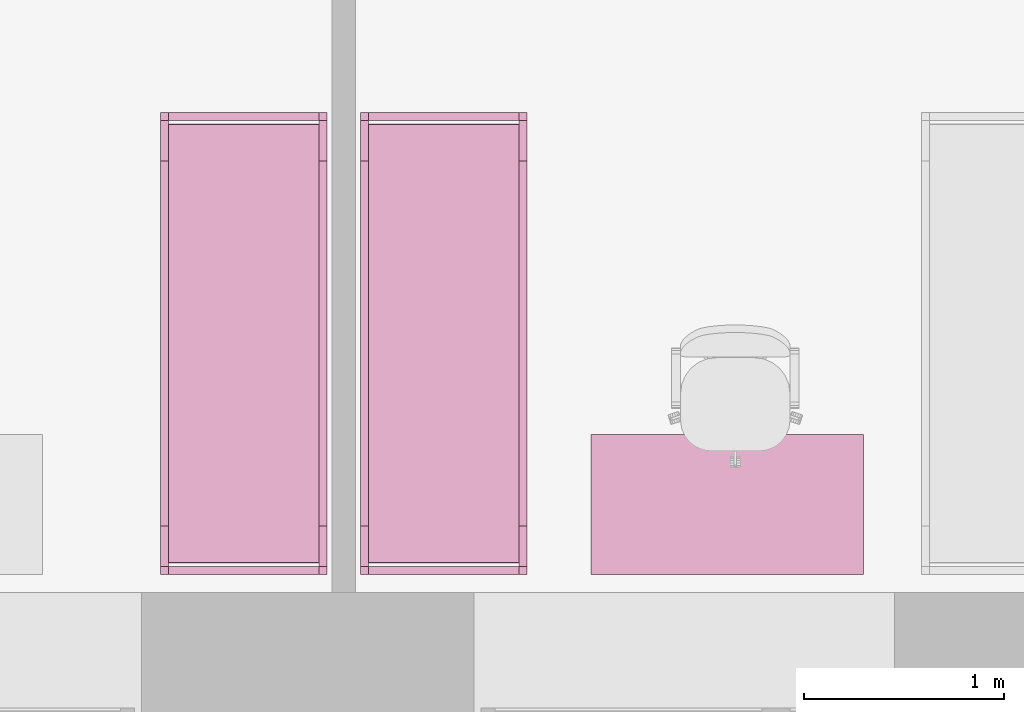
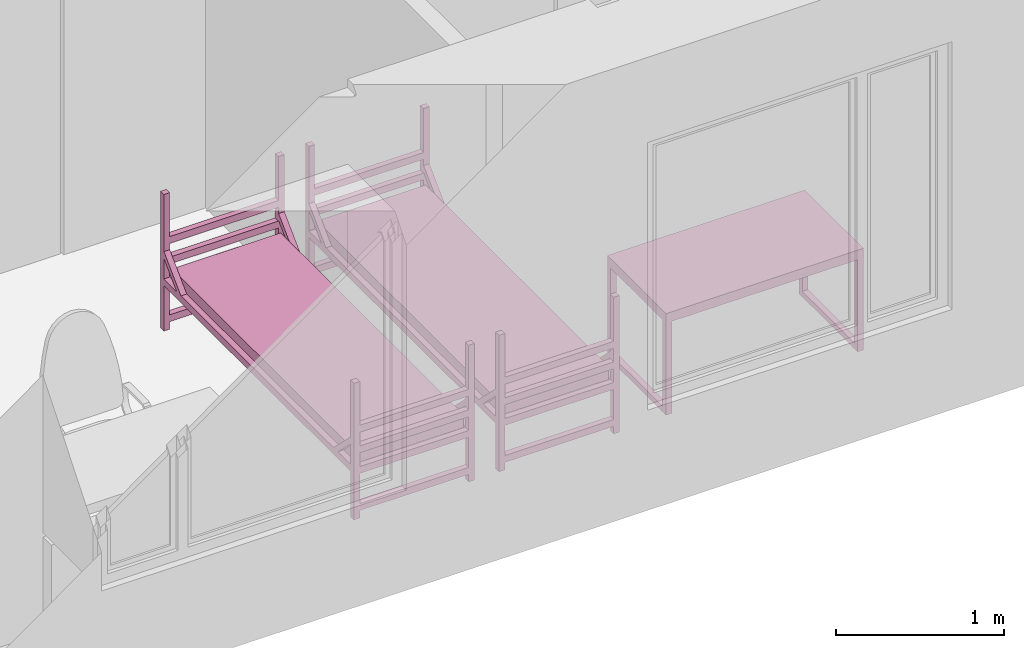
# One storey, part 25 of 48: 3 furnishings.
"""IFC2X3 building model written with IfcOpenShell, lengths in millimetres."""

from ifc_helpers import new_model, entity, si_unit, converted_unit, derived_unit, direction, frame, frame_2d, origin, origin_2d_with_axis, place, context, subcontext, project, spatial, polyline, circle_curve, parameter, trimmed, segment, composite_curve, rectangle, outline, extrude, faceted_brep, source, transform, mapped, material, material_list, type_object, type_shapes, element, save


model = new_model("IFC2X3")

# Units and contexts
model_context = context("Model", 3, precision=0.01, world=origin(), true_north=direction((6.12303176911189e-17, 1.0)))
body_context = subcontext(model_context, "Body", "Model", "MODEL_VIEW")
ifc_project = project(units=[si_unit("LENGTHUNIT", "METRE", prefix="MILLI"), si_unit("AREAUNIT", "SQUARE_METRE"), si_unit("VOLUMEUNIT", "CUBIC_METRE"), converted_unit("PLANEANGLEUNIT", "DEGREE", entity("IfcRatioMeasure", 0.0174532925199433), si_unit("PLANEANGLEUNIT", "RADIAN"), dimensions=[0, 0, 0, 0, 0, 0, 0]), si_unit("MASSUNIT", "GRAM", prefix="KILO"), derived_unit("MASSDENSITYUNIT", [(si_unit("MASSUNIT", "GRAM", prefix="KILO"), 1), (si_unit("LENGTHUNIT", "METRE"), -3)]), si_unit("TIMEUNIT", "SECOND"), si_unit("FREQUENCYUNIT", "HERTZ"), si_unit("THERMODYNAMICTEMPERATUREUNIT", "DEGREE_CELSIUS"), derived_unit("THERMALTRANSMITTANCEUNIT", [(si_unit("MASSUNIT", "GRAM", prefix="KILO"), 1), (si_unit("THERMODYNAMICTEMPERATUREUNIT", "KELVIN"), -1), (si_unit("TIMEUNIT", "SECOND"), -3)]), derived_unit("VOLUMETRICFLOWRATEUNIT", [(si_unit("LENGTHUNIT", "METRE"), 3), (si_unit("TIMEUNIT", "SECOND"), -1)]), si_unit("ELECTRICCURRENTUNIT", "AMPERE"), si_unit("ELECTRICVOLTAGEUNIT", "VOLT"), si_unit("POWERUNIT", "WATT"), si_unit("FORCEUNIT", "NEWTON", prefix="KILO"), si_unit("ILLUMINANCEUNIT", "LUX"), si_unit("LUMINOUSFLUXUNIT", "LUMEN"), si_unit("LUMINOUSINTENSITYUNIT", "CANDELA"), derived_unit("USERDEFINED", [(si_unit("MASSUNIT", "GRAM", prefix="KILO"), -1), (si_unit("LENGTHUNIT", "METRE"), -2), (si_unit("TIMEUNIT", "SECOND"), 3), (si_unit("LUMINOUSFLUXUNIT", "LUMEN"), 1)]), derived_unit("LINEARVELOCITYUNIT", [(si_unit("LENGTHUNIT", "METRE"), 1), (si_unit("TIMEUNIT", "SECOND"), -1)]), si_unit("PRESSUREUNIT", "PASCAL"), derived_unit("USERDEFINED", [(si_unit("LENGTHUNIT", "METRE"), -2), (si_unit("MASSUNIT", "GRAM", prefix="KILO"), 1), (si_unit("TIMEUNIT", "SECOND"), -2)]), derived_unit("LINEARFORCEUNIT", [(si_unit("MASSUNIT", "GRAM", prefix="KILO"), 1), (si_unit("LENGTHUNIT", "METRE"), 1), (si_unit("TIMEUNIT", "SECOND"), -2), (si_unit("LENGTHUNIT", "METRE"), -1)]), derived_unit("PLANARFORCEUNIT", [(si_unit("MASSUNIT", "GRAM", prefix="KILO"), 1), (si_unit("LENGTHUNIT", "METRE"), 1), (si_unit("TIMEUNIT", "SECOND"), -2), (si_unit("LENGTHUNIT", "METRE"), -2)])], contexts=[model_context])

# Site, building, storey, space
site_placement = place(None, origin())
site = spatial("IfcSite", under=ifc_project, at=site_placement, Name="Default", CompositionType="ELEMENT")
building_placement = place(site_placement, origin())
building = spatial("IfcBuilding", under=site, at=building_placement, Name="SMA ARH", CompositionType="ELEMENT")
storey_placement = place(building_placement, frame((0.0, 0.0, 3300.0)))
storey = spatial("IfcBuildingStorey", under=building, at=storey_placement, Name="2 Korrus", CompositionType="ELEMENT", Elevation=3299.99999999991)
space_1_placement = place(storey_placement, origin())
space_1 = spatial("IfcSpace", under=storey, at=space_1_placement, Name="2-14", CompositionType="ELEMENT", InteriorOrExteriorSpace="INTERNAL")

# Furnishing
ifc_material_1 = material(Name="Madrats")
furniture_type_1 = type_object("IfcFurnitureType", Name="Kasarmu voodi ühekordne 2308x830:Kasarmu voodi ühekordne 2308x830", material=ifc_material_1)
shared_shape_1 = source(origin(), body_context, "Body", "SweptSolid", [
    extrude(rectangle(XDim=39.9999999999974, YDim=750.000000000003, at=frame_2d((-1.35003119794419e-13, -2.8421709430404e-14), x_axis=(1.0, 0.0))), frame((1.68638457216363, -1226.7969571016, 55.0), z_axis=(0.0, 0.0, 1.0), x_axis=(0.0, -1.0, 0.0)), (0.0, 0.0, 1.0), 49.9999999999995),
    extrude(rectangle(XDim=39.9999999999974, YDim=750.000000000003, at=frame_2d((-1.35003119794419e-13, -2.8421709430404e-14), x_axis=(1.0, 0.0))), frame((1.68638457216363, -1226.7969571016, 325.0), z_axis=(0.0, 0.0, 1.0), x_axis=(0.0, -1.0, 0.0)), (0.0, 0.0, 1.0), 49.9999999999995),
    extrude(rectangle(XDim=39.9999999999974, YDim=750.000000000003, at=frame_2d((-1.35003119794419e-13, -2.8421709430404e-14), x_axis=(1.0, 0.0))), frame((1.68638457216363, -1226.7969571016, 475.0), z_axis=(0.0, 0.0, 1.0), x_axis=(0.0, -1.0, 0.0)), (0.0, 0.0, 1.0), 49.9999999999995),
    extrude(rectangle(XDim=39.9999999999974, YDim=750.000000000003, at=frame_2d((-1.35003119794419e-13, -2.8421709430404e-14), x_axis=(1.0, 0.0))), frame((1.68638457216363, -1226.7969571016, 625.0), z_axis=(0.0, 0.0, 1.0), x_axis=(0.0, -1.0, 0.0)), (0.0, 0.0, 1.0), 50.0000000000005),
    extrude(rectangle(XDim=39.9999999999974, YDim=750.000000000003, at=frame_2d((1.35003119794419e-13, -2.8421709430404e-14), x_axis=(1.0, 0.0))), frame((1.68638457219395, 1041.2030428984, 55.0), z_axis=(0.0, 0.0, 1.0), x_axis=(0.0, -1.0, 0.0)), (0.0, 0.0, 1.0), 50.0000000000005),
    extrude(rectangle(XDim=39.9999999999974, YDim=750.000000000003, at=frame_2d((1.35003119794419e-13, -2.8421709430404e-14), x_axis=(1.0, 0.0))), frame((1.68638457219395, 1041.2030428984, 325.0), z_axis=(0.0, 0.0, 1.0), x_axis=(0.0, -1.0, 0.0)), (0.0, 0.0, 1.0), 50.0000000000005),
    extrude(rectangle(XDim=39.9999999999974, YDim=750.000000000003, at=frame_2d((1.35003119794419e-13, -2.8421709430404e-14), x_axis=(1.0, 0.0))), frame((1.68638457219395, 1041.2030428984, 475.0), z_axis=(0.0, 0.0, 1.0), x_axis=(0.0, -1.0, 0.0)), (0.0, 0.0, 1.0), 50.0000000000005),
    extrude(rectangle(XDim=39.9999999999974, YDim=750.000000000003, at=frame_2d((1.35003119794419e-13, -2.8421709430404e-14), x_axis=(1.0, 0.0))), frame((1.68638457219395, 1041.2030428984, 625.0), z_axis=(0.0, 0.0, 1.0), x_axis=(0.0, -1.0, 0.0)), (0.0, 0.0, 1.0), 49.9999999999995),
    extrude(outline(composite_curve([segment(trimmed(circle_curve(frame_2d((1085.0, -40.0), x_axis=(1.0, 0.0)), 10.0), [parameter(270.0)], [parameter(0.0)], True, "PARAMETER"), True, "CONTINUOUS"), segment(polyline([(1095.0, -40.0), (1095.0, 40.0)]), True, "CONTINUOUS"), segment(trimmed(circle_curve(frame_2d((1085.0, 40.0), x_axis=(1.0, 0.0)), 10.0), [parameter(0.0)], [parameter(90.0000000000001)], True, "PARAMETER"), True, "CONTINUOUS"), segment(polyline([(1085.0, 50.0), (-1085.0, 50.0)]), True, "CONTINUOUS"), segment(trimmed(circle_curve(frame_2d((-1085.0, 40.0), x_axis=(1.0, 0.0)), 10.0), [parameter(90.0000000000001)], [parameter(180.0)], True, "PARAMETER"), True, "CONTINUOUS"), segment(polyline([(-1095.0, 40.0), (-1095.0, -40.0)]), True, "CONTINUOUS"), segment(trimmed(circle_curve(frame_2d((-1085.0, -40.0), x_axis=(1.0, 0.0)), 10.0), [parameter(180.0)], [parameter(270.0)], True, "PARAMETER"), True, "CONTINUOUS"), segment(polyline([(-1085.0, -50.0), (1085.0, -50.0)]), True, "CONTINUOUS")], self_intersect=False)), frame((-373.313615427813, -92.7969571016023, 405.0), z_axis=(1.0, 0.0, 0.0), x_axis=(0.0, -1.0, 0.0)), (0.0, 0.0, 1.0), 750.000000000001),
    extrude(outline(polyline([(-1114.0, -100.0), (1114.0, -100.0), (1114.0, -50.0), (961.59199141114, -50.0), (1114.0, 100.0), (1114.0, 150.0), (910.789321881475, -50.0), (-910.789321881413, -50.0), (-1114.0, 150.0), (-1114.0, 100.0), (-961.591991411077, -50.0), (-1114.0, -50.0), (-1114.0, -100.0)])), frame((-413.313615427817, -92.7969571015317, 430.0), z_axis=(1.0, 0.0, 0.0), x_axis=(0.0, 1.0, 0.0)), (0.0, 0.0, 1.0), 39.9999999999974),
    extrude(outline(polyline([(-1114.0, -100.0), (1114.0, -100.0), (1114.0, -50.0), (961.591991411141, -50.0), (1114.0, 100.0), (1114.0, 150.0), (910.789321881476, -50.0), (-910.789321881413, -50.0), (-1114.0, 150.0), (-1114.0, 100.0), (-961.591991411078, -50.0), (-1114.0, -50.0), (-1114.0, -100.0)])), frame((376.686384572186, -92.796957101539, 430.0), z_axis=(1.0, 0.0, 0.0), x_axis=(0.0, 1.0, 0.0)), (0.0, 0.0, 1.0), 39.9999999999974),
    extrude(rectangle(XDim=39.9999999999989, YDim=39.9999999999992, at=frame_2d((-6.75015598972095e-14, 0.0), x_axis=(1.0, 0.0))), frame((396.686384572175, -1226.79695710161, 0.0), z_axis=(0.0, 0.0, 1.0), x_axis=(0.0, 1.0, 0.0)), (0.0, 0.0, 1.0), 995.0),
    extrude(rectangle(XDim=39.9999999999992, YDim=39.9999999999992, at=frame_2d((-1.35003119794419e-13, 0.0), x_axis=(1.0, 0.0))), frame((396.686384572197, 1041.20304289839, 0.0), z_axis=(0.0, 0.0, 1.0), x_axis=(0.0, 1.0, 0.0)), (0.0, 0.0, 1.0), 995.0),
    extrude(rectangle(XDim=40.0000000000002, YDim=39.9999999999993, at=frame_2d((-1.35003119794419e-13, 0.0), x_axis=(1.0, 0.0))), frame((-393.313615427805, 1041.2030428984, 0.0), z_axis=(0.0, 0.0, 1.0), x_axis=(0.0, 1.0, 0.0)), (0.0, 0.0, 1.0), 995.0),
    extrude(rectangle(XDim=39.9999999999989, YDim=39.9999999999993, at=frame_2d((-6.75015598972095e-14, 0.0), x_axis=(1.0, 0.0))), frame((-393.313615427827, -1226.7969571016, 0.0), z_axis=(0.0, 0.0, 1.0), x_axis=(0.0, 1.0, 0.0)), (0.0, 0.0, 1.0), 995.0),
])
type_shapes(furniture_type_1, [shared_shape_1])
furnishing_1_placement = place(space_1_placement, frame((7628.8136154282, 1336.79695710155, 0.0)))
element("IfcFurnishingElement", 1, at=furnishing_1_placement, inside=space_1, type_object=furniture_type_1, material=ifc_material_1, Name="Kasarmu voodi ühekordne 2308x830:Kasarmu voodi ühekordne 2308x830", ObjectType="Kasarmu voodi ühekordne 2308x830:Kasarmu voodi ühekordne 2308x830", context=body_context, shape_type="MappedRepresentation", body=[
    mapped(shared_shape_1, transform((0.0, 0.0, 0.0), scale=1.0)),
])

# Space
space_2_placement = place(storey_placement, origin())
space_2 = spatial("IfcSpace", under=storey, at=space_2_placement, Name="2-13", CompositionType="ELEMENT", InteriorOrExteriorSpace="INTERNAL")

# Furnishings
ifc_material_2 = material(Name="<Unnamed>")
ifc_material_list = material_list([ifc_material_2, ifc_material_2])
furniture_type_2 = type_object("IfcFurnitureType", Name="kirjutuslaud 1360x700mm:kirjutuslaud 1360x700mm", material=ifc_material_list)
shared_shape_2 = source(origin(), body_context, "Body", "Brep", [
    faceted_brep([(680.0, -350.0, 720.0), (680.0, 350.0, 720.0), (680.0, 350.0, 750.0), (680.0, -350.0, 750.0), (-680.0, -350.0, 720.0), (-680.0, -350.0, 750.0), (-680.0, 350.0, 750.0), (-680.0, 350.0, 720.0)], [[[0, 1, 2, 3]], [[4, 5, 6, 7]], [[1, 0, 4, 7]], [[2, 1, 7, 6]], [[3, 2, 6, 5]], [[0, 3, 5, 4]]]),
    faceted_brep([(-640.0, -310.0, 680.0), (-640.0, 310.0, 680.0), (-640.0, 310.0, 720.0), (-640.0, -310.0, 720.0), (-680.0, -350.0, 720.0), (-680.0, 350.0, 720.0), (-680.0, 350.0, 10.0), (-680.0, -350.0, 10.0), (-680.0, 310.0, 680.0), (-680.0, -310.0, 680.0), (-680.0, -310.0, 50.0), (-680.0, 310.0, 50.0), (-640.0, -350.0, 10.0), (-640.0, -350.0, 680.0), (640.0, -350.0, 680.0), (640.0, -350.0, 10.0), (680.0, -350.0, 10.0), (680.0, -350.0, 720.0), (-640.0, 350.0, 10.0), (680.0, 350.0, 720.0), (680.0, 350.0, 10.0), (640.0, 350.0, 10.0), (640.0, 350.0, 680.0), (-640.0, 350.0, 680.0), (640.0, 310.0, 720.0), (640.0, -310.0, 720.0), (-640.0, 310.0, 50.0), (-640.0, -310.0, 50.0), (640.0, -310.0, 680.0), (640.0, 310.0, 680.0), (680.0, 310.0, 680.0), (680.0, 310.0, 50.0), (680.0, -310.0, 50.0), (680.0, -310.0, 680.0), (640.0, -310.0, 50.0), (640.0, 310.0, 50.0)], [[[0, 1, 2, 3]], [[4, 5, 6, 7], [8, 9, 10, 11]], [[4, 7, 12, 13, 14, 15, 16, 17]], [[18, 12, 7, 6]], [[6, 5, 19, 20, 21, 22, 23, 18]], [[19, 5, 4, 17], [2, 24, 25, 3]], [[26, 1, 8, 11]], [[27, 26, 11, 10]], [[0, 27, 10, 9]], [[1, 0, 9, 8]], [[14, 13, 0, 28]], [[24, 2, 1, 29]], [[3, 25, 28, 0]], [[17, 16, 20, 19], [30, 31, 32, 33]], [[21, 15, 14, 28, 34, 35, 29, 22]], [[20, 16, 15, 21]], [[31, 30, 29, 35]], [[32, 31, 35, 34]], [[33, 32, 34, 28]], [[30, 33, 28, 29]], [[29, 28, 25, 24]], [[29, 1, 23, 22]], [[12, 18, 23, 1, 26, 27, 0, 13]]]),
    faceted_brep([(-663.729456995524, -270.466136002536, 0.0), (-659.847171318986, -269.955023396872, 0.0), (-655.964885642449, -270.466136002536, 0.0), (-652.347171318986, -271.964642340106, 0.0), (-649.240569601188, -274.348421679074, 0.0), (-646.85679026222, -277.455023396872, 0.0), (-645.35828392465, -281.072737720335, 0.0), (-644.847171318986, -284.955023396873, 0.0), (-645.35828392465, -288.83730907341, 0.0), (-646.85679026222, -292.455023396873, 0.0), (-649.240569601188, -295.561625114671, 0.0), (-652.347171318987, -297.945404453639, 0.0), (-655.964885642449, -299.443910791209, 0.0), (-659.847171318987, -299.955023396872, 0.0), (-663.729456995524, -299.443910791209, 0.0), (-667.347171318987, -297.945404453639, 0.0), (-670.453773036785, -295.561625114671, 0.0), (-672.837552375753, -292.455023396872, 0.0), (-674.336058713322, -288.83730907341, 0.0), (-674.847171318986, -284.955023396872, 0.0), (-674.336058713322, -281.072737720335, 0.0), (-672.837552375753, -277.455023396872, 0.0), (-670.453773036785, -274.348421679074, 0.0), (-667.347171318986, -271.964642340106, 0.0), (-655.964885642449, -299.443910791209, 10.0), (-652.347171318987, -297.945404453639, 10.0), (-649.240569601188, -295.561625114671, 10.0), (-646.85679026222, -292.455023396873, 10.0), (-645.35828392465, -288.83730907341, 10.0), (-644.847171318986, -284.955023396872, 10.0), (-645.35828392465, -281.072737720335, 10.0), (-646.85679026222, -277.455023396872, 10.0), (-649.240569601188, -274.348421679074, 10.0), (-652.347171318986, -271.964642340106, 10.0), (-655.964885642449, -270.466136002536, 10.0), (-659.847171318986, -269.955023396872, 10.0), (-663.729456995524, -270.466136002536, 10.0), (-667.347171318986, -271.964642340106, 10.0), (-670.453773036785, -274.348421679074, 10.0), (-672.837552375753, -277.455023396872, 10.0), (-674.336058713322, -281.072737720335, 10.0), (-674.847171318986, -284.955023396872, 10.0), (-674.336058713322, -288.83730907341, 10.0), (-672.837552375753, -292.455023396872, 10.0), (-670.453773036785, -295.561625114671, 10.0), (-667.347171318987, -297.945404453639, 10.0), (-663.729456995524, -299.443910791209, 10.0), (-659.847171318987, -299.955023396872, 10.0)], [[[0, 1, 2, 3, 4, 5, 6, 7, 8, 9, 10, 11, 12, 13, 14, 15, 16, 17, 18, 19, 20, 21, 22, 23]], [[24, 25, 26, 27, 28, 29, 30, 31, 32, 33, 34, 35, 36, 37, 38, 39, 40, 41, 42, 43, 44, 45, 46, 47]], [[18, 42, 41, 19]], [[17, 43, 42, 18]], [[45, 44, 16, 15]], [[17, 16, 44, 43]], [[46, 45, 15, 14]], [[47, 46, 14, 13]], [[12, 24, 47, 13]], [[11, 25, 24, 12]], [[27, 26, 10, 9]], [[11, 10, 26, 25]], [[28, 27, 9, 8]], [[29, 28, 8, 7]], [[6, 30, 29, 7]], [[5, 31, 30, 6]], [[33, 32, 4, 3]], [[5, 4, 32, 31]], [[34, 33, 3, 2]], [[35, 34, 2, 1]], [[0, 36, 35, 1]], [[23, 37, 36, 0]], [[39, 38, 22, 21]], [[23, 22, 38, 37]], [[40, 39, 21, 20]], [[41, 40, 20, 19]]]),
    faceted_brep([(-655.964885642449, 270.466136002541, 10.0), (-652.347171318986, 271.964642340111, 10.0), (-649.240569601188, 274.348421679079, 10.0), (-646.85679026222, 277.455023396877, 10.0), (-645.35828392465, 281.07273772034, 10.0), (-644.847171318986, 284.955023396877, 10.0), (-645.35828392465, 288.837309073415, 10.0), (-646.85679026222, 292.455023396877, 10.0), (-649.240569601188, 295.561625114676, 10.0), (-652.347171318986, 297.945404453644, 10.0), (-655.964885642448, 299.443910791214, 10.0), (-659.847171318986, 299.955023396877, 10.0), (-663.729456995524, 299.443910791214, 10.0), (-667.347171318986, 297.945404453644, 10.0), (-670.453773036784, 295.561625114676, 10.0), (-672.837552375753, 292.455023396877, 10.0), (-674.336058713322, 288.837309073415, 10.0), (-674.847171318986, 284.955023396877, 10.0), (-674.336058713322, 281.07273772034, 10.0), (-672.837552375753, 277.455023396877, 10.0), (-670.453773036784, 274.348421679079, 10.0), (-667.347171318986, 271.964642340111, 10.0), (-663.729456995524, 270.466136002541, 10.0), (-659.847171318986, 269.955023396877, 10.0), (-655.964885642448, 299.443910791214, 0.0), (-652.347171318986, 297.945404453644, 0.0), (-649.240569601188, 295.561625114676, 0.0), (-646.85679026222, 292.455023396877, 0.0), (-645.35828392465, 288.837309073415, 0.0), (-644.847171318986, 284.955023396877, 0.0), (-645.35828392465, 281.07273772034, 0.0), (-646.85679026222, 277.455023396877, 0.0), (-649.240569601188, 274.348421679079, 0.0), (-652.347171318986, 271.964642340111, 0.0), (-655.964885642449, 270.466136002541, 0.0), (-659.847171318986, 269.955023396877, 0.0), (-663.729456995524, 270.466136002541, 0.0), (-667.347171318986, 271.964642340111, 0.0), (-670.453773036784, 274.348421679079, 0.0), (-672.837552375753, 277.455023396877, 0.0), (-674.336058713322, 281.07273772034, 0.0), (-674.847171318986, 284.955023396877, 0.0), (-674.336058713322, 288.837309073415, 0.0), (-672.837552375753, 292.455023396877, 0.0), (-670.453773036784, 295.561625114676, 0.0), (-667.347171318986, 297.945404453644, 0.0), (-663.729456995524, 299.443910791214, 0.0), (-659.847171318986, 299.955023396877, 0.0)], [[[0, 1, 2, 3, 4, 5, 6, 7, 8, 9, 10, 11, 12, 13, 14, 15, 16, 17, 18, 19, 20, 21, 22, 23]], [[24, 25, 26, 27, 28, 29, 30, 31, 32, 33, 34, 35, 36, 37, 38, 39, 40, 41, 42, 43, 44, 45, 46, 47]], [[40, 18, 17, 41]], [[39, 19, 18, 40]], [[21, 20, 38, 37]], [[39, 38, 20, 19]], [[22, 21, 37, 36]], [[23, 22, 36, 35]], [[34, 0, 23, 35]], [[33, 1, 0, 34]], [[3, 2, 32, 31]], [[33, 32, 2, 1]], [[4, 3, 31, 30]], [[5, 4, 30, 29]], [[28, 6, 5, 29]], [[27, 7, 6, 28]], [[9, 8, 26, 25]], [[27, 26, 8, 7]], [[10, 9, 25, 24]], [[11, 10, 24, 47]], [[46, 12, 11, 47]], [[45, 13, 12, 46]], [[15, 14, 44, 43]], [[45, 44, 14, 13]], [[16, 15, 43, 42]], [[17, 16, 42, 41]]]),
    faceted_brep([(656.270543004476, -270.466136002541, 0.0), (660.152828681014, -269.955023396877, 0.0), (664.035114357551, -270.466136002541, 0.0), (667.652828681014, -271.96464234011, 0.0), (670.759430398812, -274.348421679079, 0.0), (673.14320973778, -277.455023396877, 0.0), (674.64171607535, -281.072737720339, 0.0), (675.152828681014, -284.955023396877, 0.0), (674.64171607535, -288.837309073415, 0.0), (673.14320973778, -292.455023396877, 0.0), (670.759430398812, -295.561625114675, 0.0), (667.652828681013, -297.945404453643, 0.0), (664.035114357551, -299.443910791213, 0.0), (660.152828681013, -299.955023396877, 0.0), (656.270543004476, -299.443910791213, 0.0), (652.652828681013, -297.945404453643, 0.0), (649.546226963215, -295.561625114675, 0.0), (647.162447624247, -292.455023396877, 0.0), (645.663941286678, -288.837309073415, 0.0), (645.152828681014, -284.955023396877, 0.0), (645.663941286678, -281.072737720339, 0.0), (647.162447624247, -277.455023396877, 0.0), (649.546226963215, -274.348421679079, 0.0), (652.652828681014, -271.96464234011, 0.0), (664.035114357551, -299.443910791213, 10.0), (667.652828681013, -297.945404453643, 10.0), (670.759430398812, -295.561625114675, 10.0), (673.14320973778, -292.455023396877, 10.0), (674.64171607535, -288.837309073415, 10.0), (675.152828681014, -284.955023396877, 10.0), (674.64171607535, -281.072737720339, 10.0), (673.14320973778, -277.455023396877, 10.0), (670.759430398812, -274.348421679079, 10.0), (667.652828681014, -271.96464234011, 10.0), (664.035114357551, -270.466136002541, 10.0), (660.152828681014, -269.955023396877, 10.0), (656.270543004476, -270.466136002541, 10.0), (652.652828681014, -271.96464234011, 10.0), (649.546226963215, -274.348421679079, 10.0), (647.162447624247, -277.455023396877, 10.0), (645.663941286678, -281.072737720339, 10.0), (645.152828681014, -284.955023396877, 10.0), (645.663941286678, -288.837309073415, 10.0), (647.162447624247, -292.455023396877, 10.0), (649.546226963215, -295.561625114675, 10.0), (652.652828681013, -297.945404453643, 10.0), (656.270543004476, -299.443910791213, 10.0), (660.152828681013, -299.955023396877, 10.0)], [[[0, 1, 2, 3, 4, 5, 6, 7, 8, 9, 10, 11, 12, 13, 14, 15, 16, 17, 18, 19, 20, 21, 22, 23]], [[24, 25, 26, 27, 28, 29, 30, 31, 32, 33, 34, 35, 36, 37, 38, 39, 40, 41, 42, 43, 44, 45, 46, 47]], [[18, 42, 41, 19]], [[17, 43, 42, 18]], [[45, 44, 16, 15]], [[17, 16, 44, 43]], [[46, 45, 15, 14]], [[47, 46, 14, 13]], [[12, 24, 47, 13]], [[11, 25, 24, 12]], [[27, 26, 10, 9]], [[11, 10, 26, 25]], [[28, 27, 9, 8]], [[29, 28, 8, 7]], [[6, 30, 29, 7]], [[5, 31, 30, 6]], [[33, 32, 4, 3]], [[5, 4, 32, 31]], [[34, 33, 3, 2]], [[35, 34, 2, 1]], [[0, 36, 35, 1]], [[23, 37, 36, 0]], [[39, 38, 22, 21]], [[23, 22, 38, 37]], [[40, 39, 21, 20]], [[41, 40, 20, 19]]]),
    faceted_brep([(664.035114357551, 270.466136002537, 10.0), (667.652828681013, 271.964642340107, 10.0), (670.759430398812, 274.348421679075, 10.0), (673.14320973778, 277.455023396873, 10.0), (674.64171607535, 281.072737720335, 10.0), (675.152828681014, 284.955023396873, 10.0), (674.64171607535, 288.837309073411, 10.0), (673.14320973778, 292.455023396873, 10.0), (670.759430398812, 295.561625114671, 10.0), (667.652828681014, 297.94540445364, 10.0), (664.035114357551, 299.443910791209, 10.0), (660.152828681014, 299.955023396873, 10.0), (656.270543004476, 299.443910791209, 10.0), (652.652828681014, 297.94540445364, 10.0), (649.546226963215, 295.561625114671, 10.0), (647.162447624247, 292.455023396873, 10.0), (645.663941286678, 288.837309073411, 10.0), (645.152828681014, 284.955023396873, 10.0), (645.663941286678, 281.072737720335, 10.0), (647.162447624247, 277.455023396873, 10.0), (649.546226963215, 274.348421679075, 10.0), (652.652828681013, 271.964642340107, 10.0), (656.270543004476, 270.466136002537, 10.0), (660.152828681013, 269.955023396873, 10.0), (664.035114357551, 299.443910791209, 0.0), (667.652828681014, 297.94540445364, 0.0), (670.759430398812, 295.561625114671, 0.0), (673.14320973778, 292.455023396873, 0.0), (674.64171607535, 288.837309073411, 0.0), (675.152828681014, 284.955023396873, 0.0), (674.64171607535, 281.072737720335, 0.0), (673.14320973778, 277.455023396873, 0.0), (670.759430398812, 274.348421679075, 0.0), (667.652828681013, 271.964642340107, 0.0), (664.035114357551, 270.466136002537, 0.0), (660.152828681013, 269.955023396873, 0.0), (656.270543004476, 270.466136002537, 0.0), (652.652828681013, 271.964642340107, 0.0), (649.546226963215, 274.348421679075, 0.0), (647.162447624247, 277.455023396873, 0.0), (645.663941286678, 281.072737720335, 0.0), (645.152828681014, 284.955023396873, 0.0), (645.663941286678, 288.837309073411, 0.0), (647.162447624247, 292.455023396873, 0.0), (649.546226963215, 295.561625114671, 0.0), (652.652828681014, 297.94540445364, 0.0), (656.270543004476, 299.443910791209, 0.0), (660.152828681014, 299.955023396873, 0.0)], [[[0, 1, 2, 3, 4, 5, 6, 7, 8, 9, 10, 11, 12, 13, 14, 15, 16, 17, 18, 19, 20, 21, 22, 23]], [[24, 25, 26, 27, 28, 29, 30, 31, 32, 33, 34, 35, 36, 37, 38, 39, 40, 41, 42, 43, 44, 45, 46, 47]], [[40, 18, 17, 41]], [[39, 19, 18, 40]], [[21, 20, 38, 37]], [[39, 38, 20, 19]], [[22, 21, 37, 36]], [[23, 22, 36, 35]], [[34, 0, 23, 35]], [[33, 1, 0, 34]], [[3, 2, 32, 31]], [[33, 32, 2, 1]], [[4, 3, 31, 30]], [[5, 4, 30, 29]], [[28, 6, 5, 29]], [[27, 7, 6, 28]], [[9, 8, 26, 25]], [[27, 26, 8, 7]], [[10, 9, 25, 24]], [[11, 10, 24, 47]], [[46, 12, 11, 47]], [[45, 13, 12, 46]], [[15, 14, 44, 43]], [[45, 44, 14, 13]], [[16, 15, 43, 42]], [[17, 16, 42, 41]]]),
])
type_shapes(furniture_type_2, [shared_shape_2])
furnishing_2_placement = place(space_2_placement, frame((10045.5000000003, 440.0, 0.0)))
element("IfcFurnishingElement", 2, at=furnishing_2_placement, inside=space_2, type_object=furniture_type_2, Name="kirjutuslaud 1360x700mm:kirjutuslaud 1360x700mm", ObjectType="kirjutuslaud 1360x700mm:kirjutuslaud 1360x700mm", context=body_context, shape_type="MappedRepresentation", body=[
    mapped(shared_shape_2, transform((0.0, 0.0, 0.0), scale=1.0)),
])
furniture_type_3 = type_object("IfcFurnitureType", Name="Kasarmu voodi ühekordne 2308x830:Kasarmu voodi ühekordne 2308x830", material=ifc_material_1)
shared_shape_3 = source(origin(), body_context, "Body", "SweptSolid", [
    extrude(rectangle(XDim=750.000000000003, YDim=39.9999999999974, at=frame_2d((0.0, 1.35003119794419e-13), x_axis=(1.0, 0.0))), frame((1.68638457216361, 1226.7969571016, 55.0)), (0.0, 0.0, 1.0), 49.9999999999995),
    extrude(rectangle(XDim=750.000000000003, YDim=39.9999999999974, at=frame_2d((0.0, 1.35003119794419e-13), x_axis=(1.0, 0.0))), frame((1.68638457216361, 1226.7969571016, 325.0)), (0.0, 0.0, 1.0), 49.9999999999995),
    extrude(rectangle(XDim=750.000000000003, YDim=39.9999999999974, at=frame_2d((0.0, 1.35003119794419e-13), x_axis=(1.0, 0.0))), frame((1.68638457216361, 1226.7969571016, 475.0)), (0.0, 0.0, 1.0), 49.9999999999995),
    extrude(rectangle(XDim=750.000000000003, YDim=39.9999999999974, at=frame_2d((0.0, 1.35003119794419e-13), x_axis=(1.0, 0.0))), frame((1.68638457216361, 1226.7969571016, 625.0)), (0.0, 0.0, 1.0), 50.0000000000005),
    extrude(rectangle(XDim=750.000000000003, YDim=39.9999999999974, at=origin_2d_with_axis()), frame((1.68638457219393, -1041.2030428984, 55.0)), (0.0, 0.0, 1.0), 50.0000000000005),
    extrude(rectangle(XDim=750.000000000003, YDim=39.9999999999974, at=origin_2d_with_axis()), frame((1.68638457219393, -1041.2030428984, 325.0)), (0.0, 0.0, 1.0), 50.0000000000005),
    extrude(rectangle(XDim=750.000000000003, YDim=39.9999999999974, at=origin_2d_with_axis()), frame((1.68638457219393, -1041.2030428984, 475.0)), (0.0, 0.0, 1.0), 50.0000000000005),
    extrude(rectangle(XDim=750.000000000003, YDim=39.9999999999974, at=origin_2d_with_axis()), frame((1.68638457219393, -1041.2030428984, 625.0)), (0.0, 0.0, 1.0), 49.9999999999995),
    extrude(outline(composite_curve([segment(polyline([(-1085.0, -50.0), (1085.0, -50.0)]), True, "CONTINUOUS"), segment(trimmed(circle_curve(frame_2d((1085.0, -40.0), x_axis=(-1.0, 0.0)), 10.0), [parameter(90.0000000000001)], [parameter(180.0)], True, "PARAMETER"), True, "CONTINUOUS"), segment(polyline([(1095.0, -40.0), (1095.0, 40.0)]), True, "CONTINUOUS"), segment(trimmed(circle_curve(frame_2d((1085.0, 40.0), x_axis=(-1.0, 0.0)), 10.0), [parameter(180.0)], [parameter(270.0)], True, "PARAMETER"), True, "CONTINUOUS"), segment(polyline([(1085.0, 50.0), (-1085.0, 50.0)]), True, "CONTINUOUS"), segment(trimmed(circle_curve(frame_2d((-1085.0, 40.0), x_axis=(-1.0, 0.0)), 10.0), [parameter(270.0)], [parameter(0.0)], True, "PARAMETER"), True, "CONTINUOUS"), segment(polyline([(-1095.0, 40.0), (-1095.0, -40.0)]), True, "CONTINUOUS"), segment(trimmed(circle_curve(frame_2d((-1085.0, -40.0), x_axis=(-1.0, 0.0)), 10.0), [parameter(0.0)], [parameter(90.0000000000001)], True, "PARAMETER"), True, "CONTINUOUS")], self_intersect=False)), frame((-373.313615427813, 92.7969571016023, 405.0), z_axis=(1.0, 0.0, 0.0), x_axis=(0.0, -1.0, 0.0)), (0.0, 0.0, 1.0), 750.000000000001),
    extrude(outline(polyline([(-100.0, -1114.0), (-50.0, -1114.0), (-50.0, -961.591991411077), (100.0, -1114.0), (150.0, -1114.0), (-50.0, -910.789321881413), (-50.0, 910.789321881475), (150.0, 1114.0), (100.0, 1114.0), (-50.0, 961.591991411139), (-50.0, 1114.0), (-100.0, 1114.0), (-100.0, -1114.0)])), frame((-413.313615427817, 92.7969571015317, 430.0), z_axis=(1.0, 0.0, 0.0), x_axis=(0.0, 0.0, 1.0)), (0.0, 0.0, 1.0), 39.9999999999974),
    extrude(outline(polyline([(-100.0, -1114.0), (-50.0, -1114.0), (-50.0, -961.591991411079), (100.0, -1114.0), (150.0, -1114.0), (-50.0, -910.789321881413), (-50.0, 910.789321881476), (150.0, 1114.0), (100.0, 1114.0), (-50.0, 961.591991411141), (-50.0, 1114.0), (-100.0, 1114.0), (-100.0, -1114.0)])), frame((376.686384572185, 92.796957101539, 430.0), z_axis=(1.0, 0.0, 0.0), x_axis=(0.0, 0.0, 1.0)), (0.0, 0.0, 1.0), 39.9999999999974),
    extrude(rectangle(XDim=39.9999999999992, YDim=39.9999999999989, at=frame_2d((0.0, -6.75015598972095e-14), x_axis=(1.0, 0.0))), frame((396.686384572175, 1226.79695710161, 0.0), z_axis=(0.0, 0.0, 1.0), x_axis=(-1.0, 0.0, 0.0)), (0.0, 0.0, 1.0), 995.0),
    extrude(rectangle(XDim=39.9999999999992, YDim=39.9999999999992, at=origin_2d_with_axis()), frame((396.686384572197, -1041.20304289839, 0.0), z_axis=(0.0, 0.0, 1.0), x_axis=(-1.0, 0.0, 0.0)), (0.0, 0.0, 1.0), 995.0),
    extrude(rectangle(XDim=39.9999999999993, YDim=40.0000000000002, at=origin_2d_with_axis()), frame((-393.313615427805, -1041.2030428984, 0.0), z_axis=(0.0, 0.0, 1.0), x_axis=(-1.0, 0.0, 0.0)), (0.0, 0.0, 1.0), 995.0),
    extrude(rectangle(XDim=39.9999999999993, YDim=39.9999999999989, at=frame_2d((0.0, -6.75015598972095e-14), x_axis=(1.0, 0.0))), frame((-393.313615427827, 1226.7969571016, 0.0), z_axis=(0.0, 0.0, 1.0), x_axis=(-1.0, 0.0, 0.0)), (0.0, 0.0, 1.0), 995.0),
])
type_shapes(furniture_type_3, [shared_shape_3])
furnishing_3_placement = place(space_2_placement, frame((8631.18638457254, 1336.79695710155, 0.0), z_axis=(0.0, 0.0, 1.0), x_axis=(-1.0, 0.0, 0.0)))
element("IfcFurnishingElement", 3, at=furnishing_3_placement, inside=space_2, type_object=furniture_type_3, material=ifc_material_1, Name="Kasarmu voodi ühekordne 2308x830:Kasarmu voodi ühekordne 2308x830", ObjectType="Kasarmu voodi ühekordne 2308x830:Kasarmu voodi ühekordne 2308x830", context=body_context, shape_type="MappedRepresentation", body=[
    mapped(shared_shape_3, transform((0.0, 0.0, 0.0), scale=1.0)),
])

save(model, "model.ifc")
